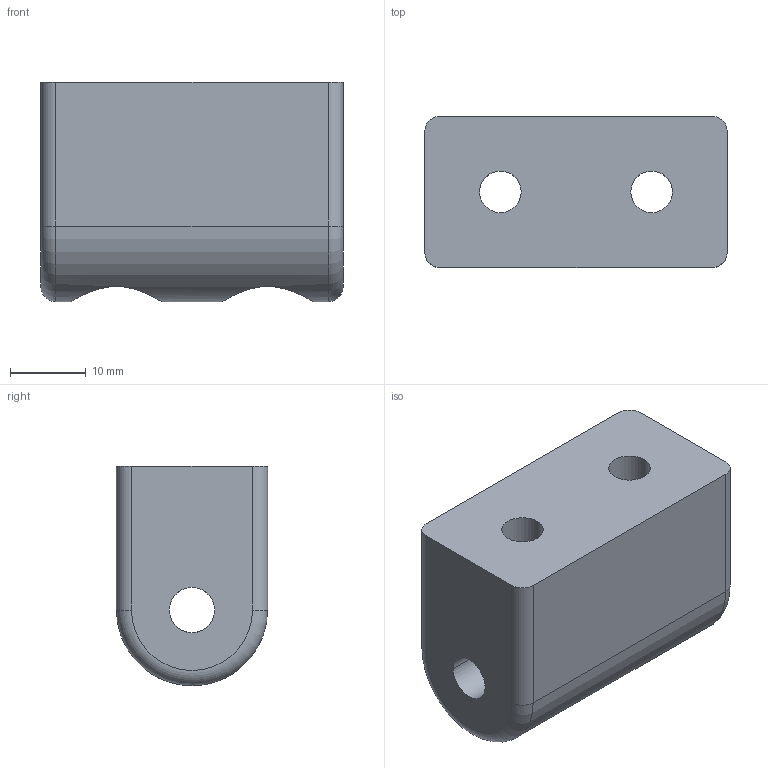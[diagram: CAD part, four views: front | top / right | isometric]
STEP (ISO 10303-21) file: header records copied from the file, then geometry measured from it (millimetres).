
FILE_DESCRIPTION((''),'2;1');
FILE_NAME('0000203998','2024-01-10T08:53:02',('Wyndorps'),(''),'CREO PARAMETRIC BY PTC INC, 2022484','CREO PARAMETRIC BY PTC INC, 2022484','');
FILE_SCHEMA(('CONFIG_CONTROL_DESIGN'));
Length unit declared in the file: millimetre
Products named in the file (1): 0000203998
Bounding box: 40 x 20 x 29 mm (x, y, z)
Volume: 15868.9 mm3; surface area: 6363.8 mm2
Topology: 1 solids, 1 shells, 28 faces, 80 edges, 52 vertices
Faces by surface type: cylinder 19, plane 7, torus 2
Entity records: 1126 total; most frequent: CARTESIAN_POINT 348, ORIENTED_EDGE 160, DIRECTION 144, EDGE_CURVE 80, AXIS2_PLACEMENT_3D 56, VERTEX_POINT 52, EDGE_LOOP 36, VECTOR 32
